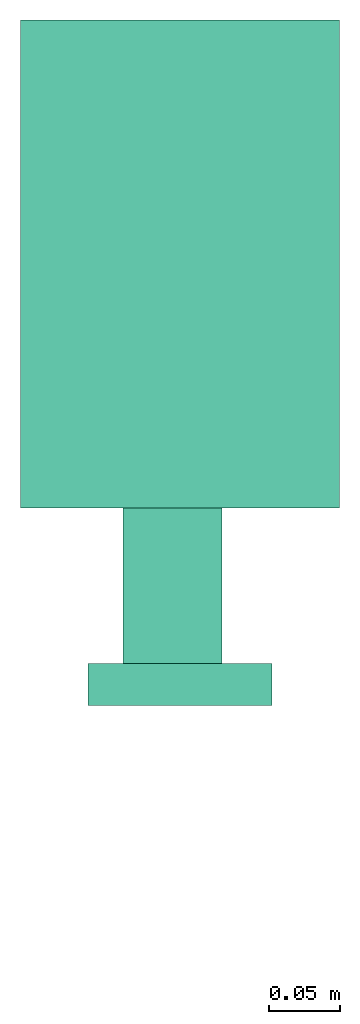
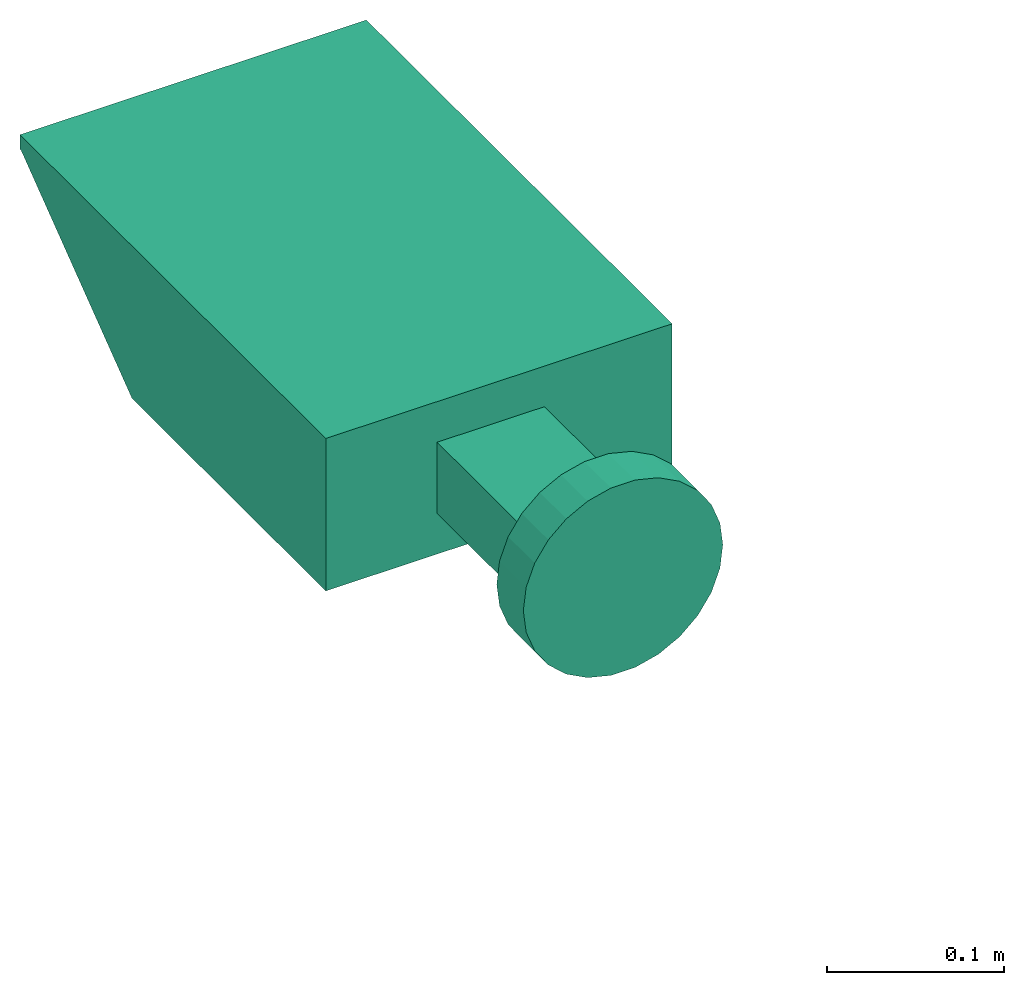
# One storey, part 1 of 2: 1 flow terminal.
"""IFC2X3 building model written with IfcOpenShell, lengths in millimetres."""

from ifc_helpers import new_model, entity, si_unit, converted_unit, derived_unit, direction, frame, frame_2d, origin, origin_with_axes, origin_2d_with_axis, place, context, subcontext, project, spatial, polyline, rectangle, circle, outline, extrude, source, transform, mapped, material, type_object, element, save


model = new_model("IFC2X3")

# Units and contexts
model_context = context("Model", 3, precision=0.01, world=origin(), true_north=direction((6.12303176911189e-17, 1.0)))
plan_context = context("Plan", 3, precision=1e-05, world=origin_with_axes())
body_context = subcontext(model_context, "Body", "Model", "MODEL_VIEW")
ifc_project = project(units=[converted_unit("PLANEANGLEUNIT", "DEGREE", entity("IfcPositiveLengthMeasure", 0.0174532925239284), si_unit("PLANEANGLEUNIT", "RADIAN"), dimensions=[0, 0, 0, 0, 0, 0, 0]), si_unit("AREAUNIT", "SQUARE_METRE"), si_unit("LENGTHUNIT", "METRE", prefix="MILLI"), si_unit("MASSUNIT", "GRAM", prefix="KILO"), si_unit("POWERUNIT", "WATT"), si_unit("PRESSUREUNIT", "PASCAL"), si_unit("FORCEUNIT", "NEWTON", prefix="KILO"), si_unit("ELECTRICVOLTAGEUNIT", "VOLT"), si_unit("ELECTRICCURRENTUNIT", "AMPERE"), si_unit("THERMODYNAMICTEMPERATUREUNIT", "DEGREE_CELSIUS"), si_unit("TIMEUNIT", "SECOND"), si_unit("VOLUMEUNIT", "CUBIC_METRE"), derived_unit("LINEARVELOCITYUNIT", [(si_unit("LENGTHUNIT", "METRE"), 1), (si_unit("TIMEUNIT", "SECOND"), -1)]), derived_unit("VOLUMETRICFLOWRATEUNIT", [(si_unit("VOLUMEUNIT", "CUBIC_METRE"), 1), (si_unit("TIMEUNIT", "SECOND"), -1)]), derived_unit("THERMALTRANSMITTANCEUNIT", [(si_unit("POWERUNIT", "WATT"), 1), (si_unit("THERMODYNAMICTEMPERATUREUNIT", "KELVIN"), -1), (si_unit("AREAUNIT", "SQUARE_METRE"), -1)]), derived_unit("SOUNDPRESSUREUNIT", [(si_unit("PRESSUREUNIT", "PASCAL"), 1)])], contexts=[model_context, plan_context])

# Site, building, storey
site_placement = place(None, frame((2314154.5009392, 1029894.10887124, 0.0), z_axis=(0.0, 0.0, 1.0), x_axis=(1.0, 0.0, 0.0)))
site = spatial("IfcSite", under=ifc_project, at=site_placement, Name="Default", CompositionType="ELEMENT")
building_placement = place(site_placement, origin_with_axes())
building = spatial("IfcBuilding", under=site, at=building_placement, CompositionType="ELEMENT")
storey_placement = place(building_placement, frame((0.0, 0.0, 7570.0), z_axis=(0.0, 0.0, 1.0), x_axis=(1.0, 0.0, 0.0)))
storey = spatial("IfcBuildingStorey", under=building, at=storey_placement, Name="XX - C +7,57 TB U1", CompositionType="ELEMENT", Elevation=7570.0)

# Flow terminal
ifc_material = material(Name="BEGA-UP-LIGHT")
light_fixture_type = type_object("IfcLightFixtureType", Name="Værnes_Lysarmatur_søyle_D trail SOUTH:UP 16", PredefinedType="NOTDEFINED", material=ifc_material)
shared_shape = source(origin(), body_context, "Body", "SweptSolid", [
    extrude(outline(polyline([(-38.333333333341, -208.713938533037), (66.666666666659, -208.713938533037), (66.6666666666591, 9.83748889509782), (-28.3333333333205, 135.018265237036), (-28.3333333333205, 136.286061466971), (-38.333333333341, 136.286061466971), (-38.333333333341, -208.713938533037)])), frame((-110.0, 695.800593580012, 3447.31588040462), z_axis=(1.0, 0.0, 0.0), x_axis=(0.0, 0.0, -1.0)), (0.0, 0.0, 1.0), 225.647670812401),
    extrude(rectangle(XDim=69.9385920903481, YDim=110.0, at=origin_2d_with_axis()), frame((-2.49999999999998, 432.08665504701, 3408.6212570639)), (0.0, 0.0, 1.0), 49.0559133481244),
    extrude(circle(Radius=65.0, at=frame_2d((-2.11497486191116e-15, 0.0), x_axis=(1.0, 0.0))), frame((2.82383540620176, 347.08665504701, 3435.17717041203), z_axis=(0.0, 1.0, 0.0), x_axis=(-1.0, 0.0, 0.0)), (0.0, 0.0, 1.0), 30.0),
])
flow_terminal_placement = place(storey_placement, frame((101357.546264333, -40062.4357764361, 2250.0), z_axis=(0.0, 0.0, 1.0), x_axis=(1.0, 0.0, 0.0)))
element("IfcFlowTerminal", 1, at=flow_terminal_placement, inside=storey, type_object=light_fixture_type, material=ifc_material, Name="Værnes_Lysarmatur_søyle_D trail SOUTH:UP 16", ObjectType="Værnes_Lysarmatur_søyle_D trail SOUTH:UP 16", context=body_context, shape_type="MappedRepresentation", body=[
    mapped(shared_shape, transform((0.0, 0.0, 0.0), scale=1.0)),
])

save(model, "model.ifc")
